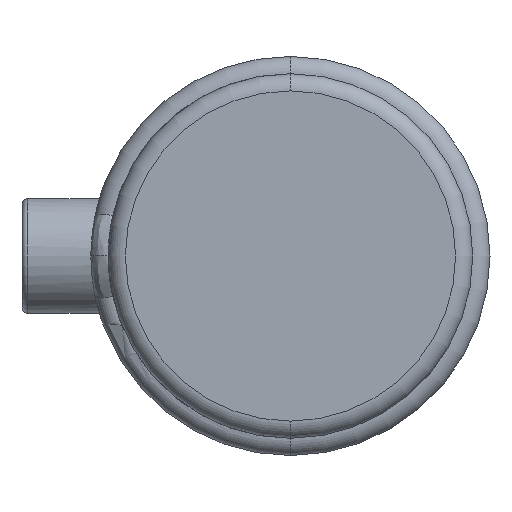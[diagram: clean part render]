
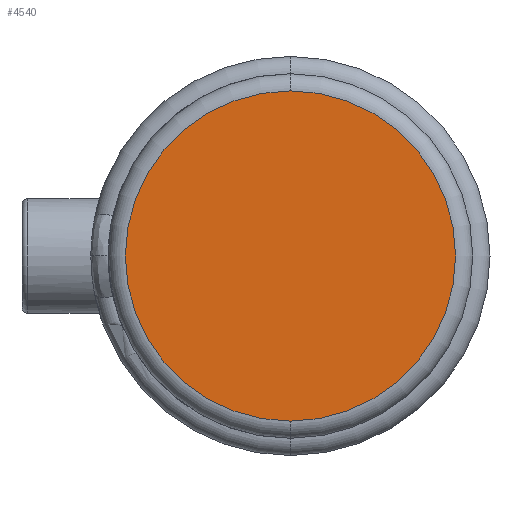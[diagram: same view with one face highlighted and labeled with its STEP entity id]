
A CAD part, left-side view. The second image highlights one B-rep face of the part: STEP entity #4540.
In plain terms, the highlighted planar face has unit normal (-1, 0, 0).
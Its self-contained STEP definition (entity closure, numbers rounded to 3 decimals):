
#400 = VERTEX_POINT ( 'NONE', #3097 ) ;
#957 = VERTEX_POINT ( 'NONE', #2401 ) ;
#1084 = DIRECTION ( 'NONE',  ( 0., 0., 1. ) ) ;
#1180 = CARTESIAN_POINT ( 'NONE',  ( 0., 0., 0. ) ) ;
#1437 = EDGE_CURVE ( 'NONE', #400, #957, #4445, .T. ) ;
#1449 = PLANE ( 'NONE',  #2148 ) ;
#1559 = DIRECTION ( 'NONE',  ( 0., 0., 1. ) ) ;
#2061 = CARTESIAN_POINT ( 'NONE',  ( 0., 0., 0. ) ) ;
#2148 = AXIS2_PLACEMENT_3D ( 'NONE', #2525, #3275, #1084 ) ;
#2401 = CARTESIAN_POINT ( 'NONE',  ( 0., 0., 28.75 ) ) ;
#2425 = DIRECTION ( 'NONE',  ( 0., 0., 1. ) ) ;
#2525 = CARTESIAN_POINT ( 'NONE',  ( 0., 0., 0. ) ) ;
#2877 = EDGE_CURVE ( 'NONE', #957, #400, #3266, .T. ) ;
#3097 = CARTESIAN_POINT ( 'NONE',  ( 0., 0., -28.75 ) ) ;
#3266 = CIRCLE ( 'NONE', #4348, 28.75 ) ;
#3275 = DIRECTION ( 'NONE',  ( -1., 0., 0. ) ) ;
#3456 = FACE_OUTER_BOUND ( 'NONE', #3787, .T. ) ;
#3733 = DIRECTION ( 'NONE',  ( -1., 0., 0. ) ) ;
#3787 = EDGE_LOOP ( 'NONE', ( #4788, #3805 ) ) ;
#3805 = ORIENTED_EDGE ( 'NONE', *, *, #1437, .T. ) ;
#4124 = AXIS2_PLACEMENT_3D ( 'NONE', #1180, #3733, #1559 ) ;
#4348 = AXIS2_PLACEMENT_3D ( 'NONE', #2061, #4651, #2425 ) ;
#4445 = CIRCLE ( 'NONE', #4124, 28.75 ) ;
#4540 = ADVANCED_FACE ( 'NONE', ( #3456 ), #1449, .T. ) ;
#4651 = DIRECTION ( 'NONE',  ( -1., 0., 0. ) ) ;
#4788 = ORIENTED_EDGE ( 'NONE', *, *, #2877, .T. ) ;
